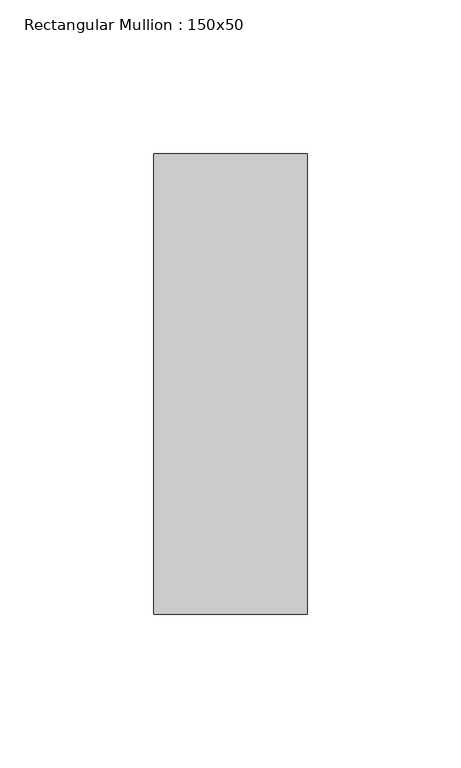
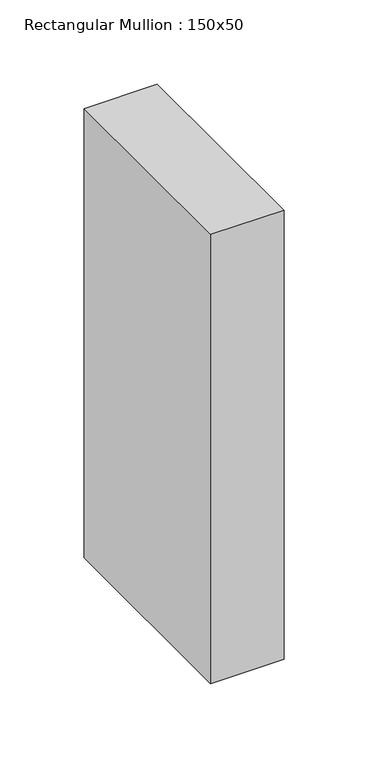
"""IFC4 building model written with IfcOpenShell, lengths in millimetres: member geometry, Rectangular Mullion : 150x50."""

import ifcopenshell
import ifcopenshell.guid

model = None  # the IFC model being written
_history = None  # IfcOwnerHistory: only IFC2X3 demands one
_inside = {}  # id of a spatial element -> (the spatial element, [elements in it])
_under = {}  # id of a project, library or spatial element -> (it, [spatial elements below it])
_declared = {}  # id of a project -> (the project, [libraries it declares])
_typed = {}  # id of a type object -> (the type object, [elements of that type])
_made_of = {}  # id of a material, layer set ... -> (it, [elements and type objects made of it])


def new_model(schema):
    """Start an empty IFC model of exactly this schema.

    Asked for "IFC4X3", IfcOpenShell would pick the latest addendum, in which some entities
    have other attributes; the version numbers below select the first issue.
    IFC2X3 requires an IfcOwnerHistory on every rooted entity: one is made here for all.
    """
    global model, _history
    if schema == "IFC4X3":
        model = ifcopenshell.file(schema_version=(4, 3, 0, 0))
    else:
        model = ifcopenshell.file(schema=schema)
    _inside.clear()
    _under.clear()
    _declared.clear()
    _typed.clear()
    _made_of.clear()
    _history = None
    if model.schema == "IFC2X3":
        org = make("IfcOrganization", Name="unknown")
        user = make(
            "IfcPersonAndOrganization",
            ThePerson=make("IfcPerson", FamilyName="unknown"),
            TheOrganization=org,
        )
        app = make(
            "IfcApplication",
            ApplicationDeveloper=org,
            Version="unknown",
            ApplicationFullName="unknown",
            ApplicationIdentifier="unknown",
        )
        _history = make(
            "IfcOwnerHistory",
            OwningUser=user,
            OwningApplication=app,
            ChangeAction="ADDED",
            CreationDate=0,
        )
    return model


def make(cls, **values):
    """One entity of the class cls with the attributes given. An attribute that is None is left unset."""
    return model.create_entity(
        cls, **{name: value for name, value in values.items() if value is not None}
    )


def rooted(cls, **values):
    """An entity with a GlobalId (a new one), such as an element, a storey or a relation."""
    return make(cls, GlobalId=ifcopenshell.guid.new(), OwnerHistory=_history, **values)


def si_unit(unit_type, name, prefix=None):
    """IfcSIUnit, for example si_unit("LENGTHUNIT", "METRE", prefix="MILLI")."""
    return make("IfcSIUnit", UnitType=unit_type, Prefix=prefix, Name=name)


def assignment(units):
    """IfcUnitAssignment: the units of a project."""
    return None if units is None else make("IfcUnitAssignment", Units=units)


def point(xyz):
    """IfcCartesianPoint."""
    return None if xyz is None else make("IfcCartesianPoint", Coordinates=xyz)


def direction(xyz):
    """IfcDirection."""
    return None if xyz is None else make("IfcDirection", DirectionRatios=xyz)


def frame(location, z_axis=None, x_axis=None):
    """IfcAxis2Placement3D, a coordinate frame: its origin and axes. An axis left out is left unset."""
    return make(
        "IfcAxis2Placement3D",
        Location=point(location),
        Axis=direction(z_axis),
        RefDirection=direction(x_axis),
    )


def origin():
    """The frame at (0, 0, 0) with its axes left unset."""
    return frame((0.0, 0.0, 0.0))


def place(relative_to, where):
    """IfcLocalPlacement: puts the frame where relative to a parent placement (None: the world)."""
    return make(
        "IfcLocalPlacement", PlacementRelTo=relative_to, RelativePlacement=where
    )


def context(
    kind, dimensions, precision=None, world=None, true_north=None, identifier=None
):
    """IfcGeometricRepresentationContext, for example the 3D "Model" context."""
    return make(
        "IfcGeometricRepresentationContext",
        ContextIdentifier=identifier,
        ContextType=kind,
        CoordinateSpaceDimension=dimensions,
        Precision=precision,
        WorldCoordinateSystem=world,
        TrueNorth=true_north,
    )


def project(units=None, contexts=None):
    """IfcProject with its units and contexts."""
    return rooted(
        "IfcProject",
        Name="project",
        RepresentationContexts=contexts,
        UnitsInContext=assignment(units),
    )


def spatial(cls, under=None, at=None, **own):
    """A site, building, storey or space (cls), placed at a placement, below another one or the project."""
    s = rooted(cls, ObjectPlacement=at, **own)
    if under is not None:
        _under.setdefault(under.id(), (under, []))[1].append(s)
    return s


def polyline(points):
    """IfcPolyline through the points."""
    return make("IfcPolyline", Points=[point(p) for p in points])


def outline(outer, holes=None, kind="AREA"):
    """IfcArbitraryClosedProfileDef: a profile drawn as a closed curve; with holes, ...WithVoids."""
    if holes is None:
        return make("IfcArbitraryClosedProfileDef", ProfileType=kind, OuterCurve=outer)
    return make(
        "IfcArbitraryProfileDefWithVoids",
        ProfileType=kind,
        OuterCurve=outer,
        InnerCurves=holes,
    )


def extrude(swept, where, along, depth):
    """IfcExtrudedAreaSolid: the profile swept, set in the frame where, extruded along a direction by depth."""
    return make(
        "IfcExtrudedAreaSolid",
        SweptArea=swept,
        Position=where,
        ExtrudedDirection=direction(along),
        Depth=depth,
    )


def shape(context_of_items, identifier, shape_type, items):
    """IfcShapeRepresentation: the items that make up one representation, for example the "Body"."""
    return make(
        "IfcShapeRepresentation",
        ContextOfItems=context_of_items,
        RepresentationIdentifier=identifier,
        RepresentationType=shape_type,
        Items=items,
    )


def source(mapping_origin, context_of_items, identifier, shape_type, items):
    """IfcRepresentationMap: a shape defined once, which mapped items show again and again."""
    return make(
        "IfcRepresentationMap",
        MappingOrigin=mapping_origin,
        MappedRepresentation=shape(context_of_items, identifier, shape_type, items),
    )


def transform(
    local_origin,
    x_axis=None,
    y_axis=None,
    z_axis=None,
    scale=None,
    scale2=None,
    scale3=None,
    uniform=True,
):
    """IfcCartesianTransformationOperator3D, or its non-uniform kind. x_axis, y_axis, z_axis: its Axis1, 2, 3."""
    if uniform:
        return make(
            "IfcCartesianTransformationOperator3D",
            Axis1=direction(x_axis),
            Axis2=direction(y_axis),
            LocalOrigin=point(local_origin),
            Scale=scale,
            Axis3=direction(z_axis),
        )
    return make(
        "IfcCartesianTransformationOperator3DnonUniform",
        Axis1=direction(x_axis),
        Axis2=direction(y_axis),
        LocalOrigin=point(local_origin),
        Scale=scale,
        Axis3=direction(z_axis),
        Scale2=scale2,
        Scale3=scale3,
    )


def mapped(mapping_source, mapping_target):
    """IfcMappedItem: shows the shape of a source again, moved by a transform."""
    return make(
        "IfcMappedItem", MappingSource=mapping_source, MappingTarget=mapping_target
    )


def made_of(thing, what):
    """Note that an element or type object is made of a material, layer set ...; save() writes the relation."""
    if what is not None:
        _made_of.setdefault(what.id(), (what, []))[1].append(thing)
    return thing


def element(
    cls,
    number,
    at=None,
    inside=None,
    cuts=None,
    type_object=None,
    material=None,
    context=None,
    identifier="Body",
    shape_type=None,
    held_by="IfcProductDefinitionShape",
    body=None,
    shapes=None,
    **own,
):
    """One element of the class cls, such as IfcWall. Its Tag is "e" and its number.

    at: its placement. inside: the storey or other place that contains it. cuts: it is an
    opening in that element (IfcRelVoidsElement). A single representation is given by context,
    identifier, shape_type and body (its items); several are given by shapes. held_by: the class
    of the entity that holds the representations. save() writes the other relations.
    """
    e = rooted(cls, Tag="e%d" % number, ObjectPlacement=at, **own)
    if body is not None:
        shapes = [shape(context, identifier, shape_type, body)]
    if shapes is not None:
        e.Representation = make(held_by, Representations=shapes)
    if inside is not None:
        _inside.setdefault(inside.id(), (inside, []))[1].append(e)
    if cuts is not None:
        rooted(
            "IfcRelVoidsElement", RelatingBuildingElement=cuts, RelatedOpeningElement=e
        )
    if type_object is not None:
        _typed.setdefault(type_object.id(), (type_object, []))[1].append(e)
    return made_of(e, material)


def aggregate(whole, parts):
    """IfcRelAggregates: a whole, such as a stair, and the parts it consists of."""
    return rooted("IfcRelAggregates", RelatingObject=whole, RelatedObjects=parts)


def save(model, path):
    """Write the relations noted so far, then the file.

    IfcRelAggregates (storeys below a building ...), IfcRelContainedInSpatialStructure (elements
    in a storey), IfcRelDefinesByType, IfcRelAssociatesMaterial and IfcRelDeclares: one each for
    every whole, place, type object, material and project.
    """
    for whole, parts in _under.values():
        aggregate(whole, parts)
    for where, things in _inside.values():
        rooted(
            "IfcRelContainedInSpatialStructure",
            RelatedElements=things,
            RelatingStructure=where,
        )
    for kind, things in _typed.values():
        rooted("IfcRelDefinesByType", RelatedObjects=things, RelatingType=kind)
    for what, things in _made_of.values():
        rooted("IfcRelAssociatesMaterial", RelatedObjects=things, RelatingMaterial=what)
    for by, libraries in _declared.values():
        rooted("IfcRelDeclares", RelatingContext=by, RelatedDefinitions=libraries)
    model.write(path)


def rectangular_mullion_150x50_eb2469b3(model_context):
    return source(origin(), model_context, "Body", "SweptSolid", [
        extrude(outline(polyline([(0.0, 75.0), (0.0, -75.0), (-50.0, -75.0), (-50.0, 75.0), (0.0, 75.0)])), frame((0.0, 0.0, -325.0), z_axis=(0.0, 0.0, 1.0), x_axis=(1.0, 0.0, 0.0)), (0.0, 0.0, 1.0), 325.0),
    ])


if __name__ == "__main__":
    model = new_model("IFC4")
    model_context = context("Model", 3, world=origin())
    ifc_project = project(units=[si_unit("LENGTHUNIT", "METRE", prefix="MILLI")], contexts=[model_context])
    site = spatial("IfcSite", under=ifc_project)
    building = spatial("IfcBuilding", under=site)
    placement = place(None, origin())
    rectangular_mullion_150x50_shape = rectangular_mullion_150x50_eb2469b3(model_context)
    element("IfcMember", 1, ObjectType="Rectangular Mullion : 150x50", at=placement, inside=building, context=model_context, shape_type="MappedRepresentation", body=[
        mapped(rectangular_mullion_150x50_shape, transform((0.0, 0.0, 0.0), x_axis=(1.0, 0.0, 0.0), y_axis=(0.0, 1.0, 0.0), z_axis=(0.0, 0.0, 1.0))),
    ])
    save(model, "model.ifc")
